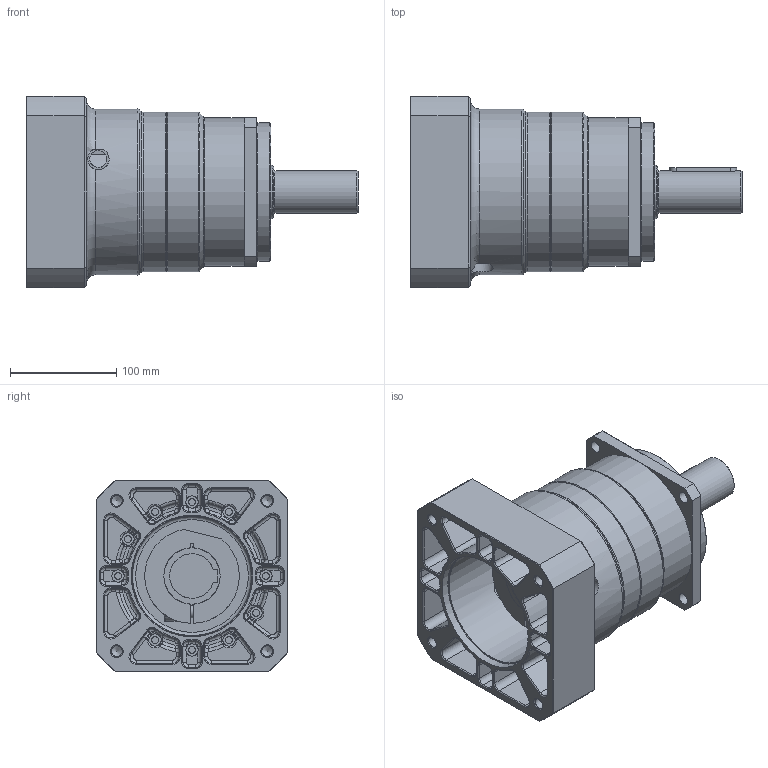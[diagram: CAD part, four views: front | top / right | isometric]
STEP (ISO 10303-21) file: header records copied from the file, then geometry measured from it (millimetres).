
FILE_DESCRIPTION(/* description */ (''),/* implementation_level */ '2;1');
FILE_NAME(/* name */ 'WEB140-L1-标准75C.stp',/* time_stamp */ '2025-08-13T14:00:18+08:00',/* author */ (''),/* organization */ (''),/* preprocessor_version */ 'ST-DEVELOPER v16.7',/* originating_system */ 'SIEMENS PLM Software NX 12.0',/* authorisation */ '');
FILE_SCHEMA (('AUTOMOTIVE_DESIGN { 1 0 10303 214 3 1 1 1 }'));
Length unit declared in the file: millimetre
Products named in the file (5): GB-T70.1-2000,M12x35; 底座一体-WEB142-DZYT-7.5KW-_50271240_-202
5-3-4_stp; RLZ140-42K12; WAB180-SJT_M12_-53_stp_MODEL; WEB140-L1-标准30C_stp
Assembly tree (4 placements, depth 3):
  WEB140-L1-标准30C_stp
    WAB180-SJT_M12_-53_stp_MODEL
      GB-T70.1-2000,M12x35
    RLZ140-42K12
    底座一体-WEB142-DZYT-7.5KW-_50271240_-202
5-3-4_stp
Bounding box: 312 x 180 x 180 mm (x, y, z)
Volume: 3479977.2 mm3; surface area: 439768.1 mm2
Topology: 5 solids, 5 shells, 954 faces, 2180 edges, 1221 vertices
Faces by surface type: cylinder 362, torus 229, plane 189, bspline 77, sphere 56, cone 41
Full cylindrical faces by diameter (mm): 6.5 x10, 10.3 x5, 11 x4, 11.5 x10, 11.701 x1, 12.5 x1, 13.835 x1, 16 x2, 17 x1, 18 x1, 40 x1, 50 x1, 53 x1, 55 x2, 60 x1, 98.5 x1, 110 x1, 112 x1, 114.3 x1, 125 x1, 130 x1, 140 x1, 150 x2, 156 x1
Entity records: 27873 total; most frequent: CARTESIAN_POINT 6336, DIRECTION 4876, ORIENTED_EDGE 3984, AXIS2_PLACEMENT_3D 2132, EDGE_CURVE 1992, CIRCLE 1250, VERTEX_POINT 1182, EDGE_LOOP 1120
